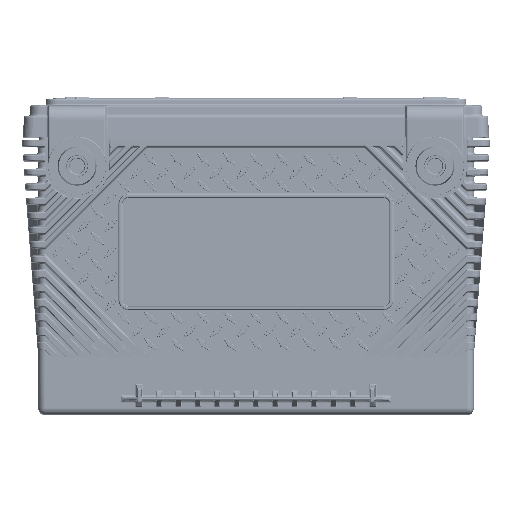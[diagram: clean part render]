
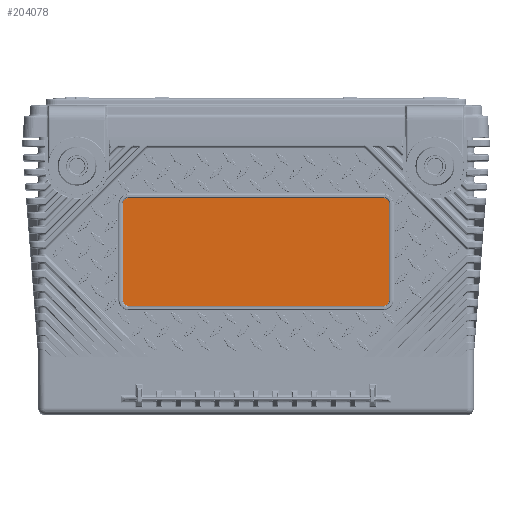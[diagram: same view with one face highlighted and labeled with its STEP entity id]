
A CAD part, top view. The second image highlights one B-rep face of the part: STEP entity #204078.
In plain terms, the highlighted planar face has unit normal (0, -0.001, 1).
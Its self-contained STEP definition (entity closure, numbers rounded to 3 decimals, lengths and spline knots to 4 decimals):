
#11489 = VERTEX_POINT ( 'NONE', #353695 ) ;
#13410 = VERTEX_POINT ( 'NONE', #483465 ) ;
#13681 = CARTESIAN_POINT ( 'NONE',  ( 2.9365, 2.5225, 3.1311 ) ) ;
#24147 = AXIS2_PLACEMENT_3D ( 'NONE', #63918, #408823, #254444 ) ;
#31745 = EDGE_CURVE ( 'NONE', #11489, #225643, #56492, .T. ) ;
#35272 = CARTESIAN_POINT ( 'NONE',  ( -5.034, 5.0135, 3.1338 ) ) ;
#46464 = VERTEX_POINT ( 'NONE', #13681 ) ;
#46603 = CARTESIAN_POINT ( 'NONE',  ( -5.034, 0., 3.1285 ) ) ;
#56492 = LINE ( 'NONE', #447522, #222221 ) ;
#63918 = CARTESIAN_POINT ( 'NONE',  ( -2.9365, 4.872, 3.1336 ) ) ;
#82632 = DIRECTION ( 'NONE',  ( 0., -1., -0.001 ) ) ;
#92523 = DIRECTION ( 'NONE',  ( 0., -0.001, 1. ) ) ;
#102566 = CARTESIAN_POINT ( 'NONE',  ( -5.034, 2.5225, 3.1311 ) ) ;
#106209 = VECTOR ( 'NONE', #308075, 39.3701 ) ;
#115355 = CARTESIAN_POINT ( 'NONE',  ( -2.9365, 2.664, 3.1313 ) ) ;
#116140 = EDGE_LOOP ( 'NONE', ( #274162, #197868, #416942, #315671, #476485, #357787, #267439, #205643 ) ) ;
#167110 = AXIS2_PLACEMENT_3D ( 'NONE', #378736, #178140, #335057 ) ;
#175036 = AXIS2_PLACEMENT_3D ( 'NONE', #115355, #272345, #467764 ) ;
#178140 = DIRECTION ( 'NONE',  ( 0., -0.001, 1. ) ) ;
#184795 = LINE ( 'NONE', #102566, #476361 ) ;
#191187 = CIRCLE ( 'NONE', #175036, 0.1415 ) ;
#191709 = CIRCLE ( 'NONE', #167110, 0.1415 ) ;
#197868 = ORIENTED_EDGE ( 'NONE', *, *, #259165, .T. ) ;
#204078 = ADVANCED_FACE ( 'NONE', ( #239616 ), #399096, .T. ) ;
#205643 = ORIENTED_EDGE ( 'NONE', *, *, #394904, .T. ) ;
#215668 = EDGE_CURVE ( 'NONE', #225643, #13410, #273493, .T. ) ;
#222221 = VECTOR ( 'NONE', #414068, 39.3701 ) ;
#225643 = VERTEX_POINT ( 'NONE', #398557 ) ;
#239616 = FACE_OUTER_BOUND ( 'NONE', #116140, .T. ) ;
#254444 = DIRECTION ( 'NONE',  ( 0., -1., -0.001 ) ) ;
#259165 = EDGE_CURVE ( 'NONE', #299069, #352755, #191187, .T. ) ;
#267439 = ORIENTED_EDGE ( 'NONE', *, *, #319053, .T. ) ;
#267747 = EDGE_CURVE ( 'NONE', #409144, #299069, #416278, .T. ) ;
#272345 = DIRECTION ( 'NONE',  ( 0., -0.001, 1. ) ) ;
#273493 = CIRCLE ( 'NONE', #372264, 0.1415 ) ;
#274162 = ORIENTED_EDGE ( 'NONE', *, *, #267747, .T. ) ;
#283089 = EDGE_CURVE ( 'NONE', #46464, #11489, #191709, .T. ) ;
#288119 = CARTESIAN_POINT ( 'NONE',  ( 2.9365, 4.872, 3.1336 ) ) ;
#299069 = VERTEX_POINT ( 'NONE', #384183 ) ;
#302404 = CARTESIAN_POINT ( 'NONE',  ( -3.078, 4.872, 3.1336 ) ) ;
#302994 = CARTESIAN_POINT ( 'NONE',  ( -3.078, 0., 3.1285 ) ) ;
#308075 = DIRECTION ( 'NONE',  ( 0., -1., -0.001 ) ) ;
#315671 = ORIENTED_EDGE ( 'NONE', *, *, #283089, .T. ) ;
#316810 = DIRECTION ( 'NONE',  ( 0., -0.001, 1. ) ) ;
#319053 = EDGE_CURVE ( 'NONE', #13410, #428652, #505967, .T. ) ;
#326298 = AXIS2_PLACEMENT_3D ( 'NONE', #46603, #316810, #82632 ) ;
#335057 = DIRECTION ( 'NONE',  ( 0., -1., -0.001 ) ) ;
#341734 = DIRECTION ( 'NONE',  ( 1., 0., 0. ) ) ;
#352755 = VERTEX_POINT ( 'NONE', #407134 ) ;
#353695 = CARTESIAN_POINT ( 'NONE',  ( 3.078, 2.664, 3.1313 ) ) ;
#357787 = ORIENTED_EDGE ( 'NONE', *, *, #215668, .T. ) ;
#369969 = CARTESIAN_POINT ( 'NONE',  ( -2.9365, 5.0135, 3.1338 ) ) ;
#372264 = AXIS2_PLACEMENT_3D ( 'NONE', #288119, #92523, #406406 ) ;
#372425 = EDGE_CURVE ( 'NONE', #352755, #46464, #184795, .T. ) ;
#378736 = CARTESIAN_POINT ( 'NONE',  ( 2.9365, 2.664, 3.1313 ) ) ;
#384183 = CARTESIAN_POINT ( 'NONE',  ( -3.078, 2.664, 3.1313 ) ) ;
#394904 = EDGE_CURVE ( 'NONE', #428652, #409144, #483904, .T. ) ;
#395418 = DIRECTION ( 'NONE',  ( -1., 0., 0. ) ) ;
#398557 = CARTESIAN_POINT ( 'NONE',  ( 3.078, 4.872, 3.1336 ) ) ;
#399096 = PLANE ( 'NONE',  #326298 ) ;
#406406 = DIRECTION ( 'NONE',  ( 0., -1., -0.001 ) ) ;
#407134 = CARTESIAN_POINT ( 'NONE',  ( -2.9365, 2.5225, 3.1311 ) ) ;
#408823 = DIRECTION ( 'NONE',  ( 0., -0.001, 1. ) ) ;
#409144 = VERTEX_POINT ( 'NONE', #302404 ) ;
#414068 = DIRECTION ( 'NONE',  ( 0., 1., 0.001 ) ) ;
#416278 = LINE ( 'NONE', #302994, #106209 ) ;
#416942 = ORIENTED_EDGE ( 'NONE', *, *, #372425, .T. ) ;
#428652 = VERTEX_POINT ( 'NONE', #369969 ) ;
#433692 = VECTOR ( 'NONE', #395418, 39.3701 ) ;
#447522 = CARTESIAN_POINT ( 'NONE',  ( 3.078, 0., 3.1285 ) ) ;
#467764 = DIRECTION ( 'NONE',  ( 0., -1., -0.001 ) ) ;
#476361 = VECTOR ( 'NONE', #341734, 39.3701 ) ;
#476485 = ORIENTED_EDGE ( 'NONE', *, *, #31745, .T. ) ;
#483465 = CARTESIAN_POINT ( 'NONE',  ( 2.9365, 5.0135, 3.1338 ) ) ;
#483904 = CIRCLE ( 'NONE', #24147, 0.1415 ) ;
#505967 = LINE ( 'NONE', #35272, #433692 ) ;
